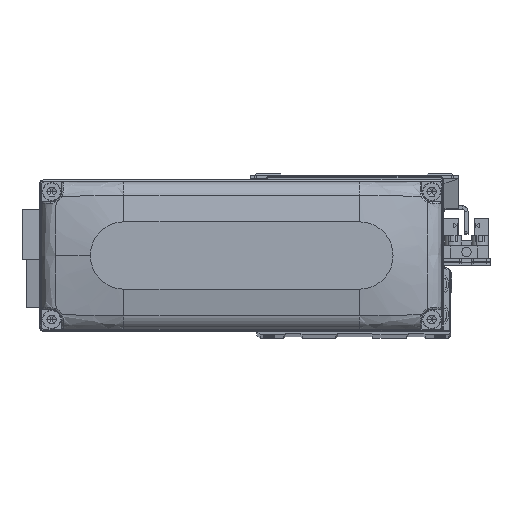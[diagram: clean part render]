
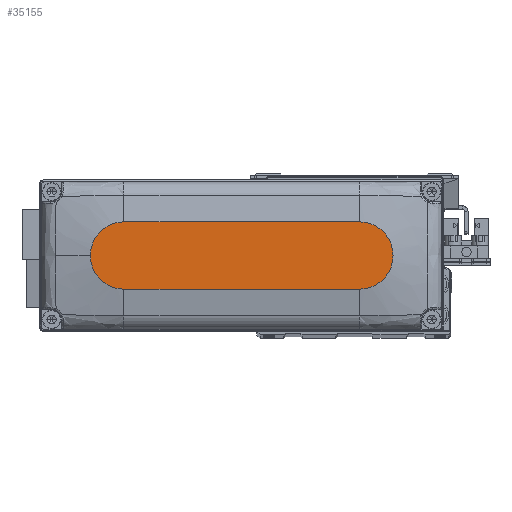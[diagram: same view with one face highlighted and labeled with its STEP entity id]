
A CAD part, top view. The second image highlights one B-rep face of the part: STEP entity #35155.
In plain terms, the highlighted planar face has unit normal (0, 0, 1).
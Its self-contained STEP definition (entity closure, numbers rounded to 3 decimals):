
#19 = DIRECTION ( 'NONE',  ( 0., 0., 1. ) ) ;
#1435 = EDGE_CURVE ( 'NONE', #6788, #27985, #40680, .T. ) ;
#1712 = CARTESIAN_POINT ( 'NONE',  ( -35., 10., 28. ) ) ;
#6140 = ORIENTED_EDGE ( 'NONE', *, *, #1435, .T. ) ;
#6291 = CIRCLE ( 'NONE', #30849, 10. ) ;
#6788 = VERTEX_POINT ( 'NONE', #41109 ) ;
#7753 = VERTEX_POINT ( 'NONE', #9060 ) ;
#8888 = ORIENTED_EDGE ( 'NONE', *, *, #31957, .T. ) ;
#9046 = DIRECTION ( 'NONE',  ( 0., 0., 1. ) ) ;
#9060 = CARTESIAN_POINT ( 'NONE',  ( -35., 10., 28. ) ) ;
#9161 = DIRECTION ( 'NONE',  ( 0., 0., 1. ) ) ;
#9638 = CIRCLE ( 'NONE', #34219, 10. ) ;
#11957 = VERTEX_POINT ( 'NONE', #18140 ) ;
#11992 = DIRECTION ( 'NONE',  ( 1., 0., 0. ) ) ;
#12308 = CARTESIAN_POINT ( 'NONE',  ( 35., 0., 28. ) ) ;
#12445 = FACE_OUTER_BOUND ( 'NONE', #19594, .T. ) ;
#13410 = DIRECTION ( 'NONE',  ( 1., 0., 0. ) ) ;
#13787 = VECTOR ( 'NONE', #15091, 1000. ) ;
#14068 = VERTEX_POINT ( 'NONE', #34512 ) ;
#14692 = ORIENTED_EDGE ( 'NONE', *, *, #31304, .T. ) ;
#15091 = DIRECTION ( 'NONE',  ( -1., 0., 0. ) ) ;
#18140 = CARTESIAN_POINT ( 'NONE',  ( 35., 10., 28. ) ) ;
#18674 = ORIENTED_EDGE ( 'NONE', *, *, #30243, .T. ) ;
#19594 = EDGE_LOOP ( 'NONE', ( #18674, #28271, #8888, #6140, #14692 ) ) ;
#19910 = EDGE_CURVE ( 'NONE', #7753, #14068, #6291, .T. ) ;
#21759 = AXIS2_PLACEMENT_3D ( 'NONE', #12308, #25729, #39121 ) ;
#22475 = DIRECTION ( 'NONE',  ( 1., 0., 0. ) ) ;
#22592 = DIRECTION ( 'NONE',  ( 1., 0., 0. ) ) ;
#25729 = DIRECTION ( 'NONE',  ( 0., 0., 1. ) ) ;
#25867 = PLANE ( 'NONE',  #31690 ) ;
#27985 = VERTEX_POINT ( 'NONE', #39848 ) ;
#28271 = ORIENTED_EDGE ( 'NONE', *, *, #19910, .T. ) ;
#28691 = LINE ( 'NONE', #42090, #37084 ) ;
#30108 = CARTESIAN_POINT ( 'NONE',  ( -35., 0., 28. ) ) ;
#30243 = EDGE_CURVE ( 'NONE', #11957, #7753, #31815, .T. ) ;
#30849 = AXIS2_PLACEMENT_3D ( 'NONE', #30108, #19, #13410 ) ;
#31304 = EDGE_CURVE ( 'NONE', #27985, #11957, #9638, .T. ) ;
#31690 = AXIS2_PLACEMENT_3D ( 'NONE', #39267, #9161, #22592 ) ;
#31815 = LINE ( 'NONE', #1712, #13787 ) ;
#31957 = EDGE_CURVE ( 'NONE', #14068, #6788, #28691, .T. ) ;
#34219 = AXIS2_PLACEMENT_3D ( 'NONE', #39151, #9046, #22475 ) ;
#34512 = CARTESIAN_POINT ( 'NONE',  ( -35., -10., 28. ) ) ;
#35155 = ADVANCED_FACE ( 'NONE', ( #12445 ), #25867, .T. ) ;
#37084 = VECTOR ( 'NONE', #11992, 1000. ) ;
#39121 = DIRECTION ( 'NONE',  ( 1., 0., 0. ) ) ;
#39151 = CARTESIAN_POINT ( 'NONE',  ( 35., 0., 28. ) ) ;
#39267 = CARTESIAN_POINT ( 'NONE',  ( 0., 0., 28. ) ) ;
#39848 = CARTESIAN_POINT ( 'NONE',  ( 45., 0., 28. ) ) ;
#40680 = CIRCLE ( 'NONE', #21759, 10. ) ;
#41109 = CARTESIAN_POINT ( 'NONE',  ( 35., -10., 28. ) ) ;
#42090 = CARTESIAN_POINT ( 'NONE',  ( -35., -10., 28. ) ) ;
